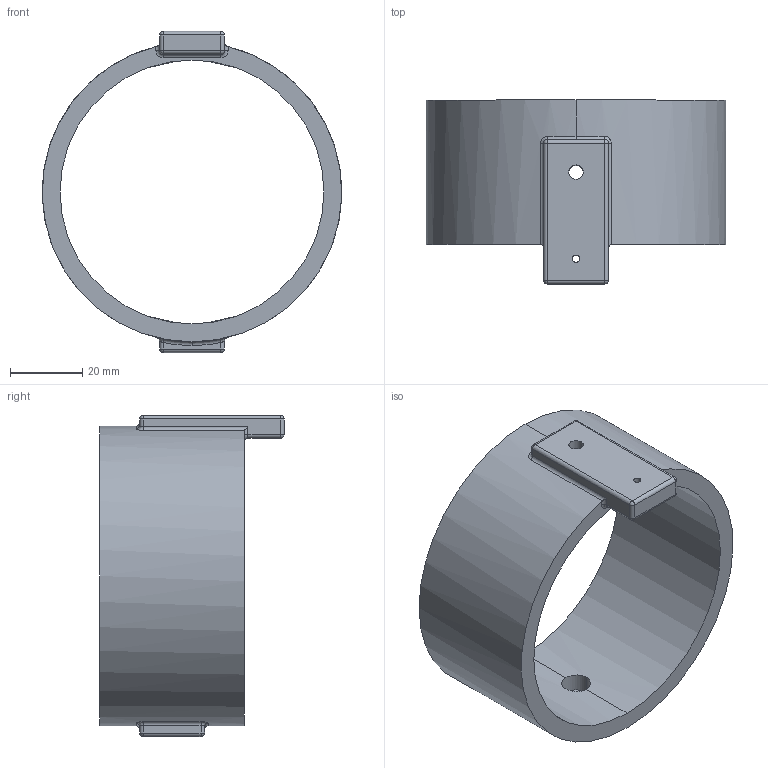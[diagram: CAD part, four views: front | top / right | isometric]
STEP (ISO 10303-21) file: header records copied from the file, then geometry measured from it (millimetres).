
FILE_DESCRIPTION (( 'STEP AP214' ), '1' );
FILE_NAME ('Anel_interno.STEP', '2026-11-19T20:06:18', ( '' ), ( '' ), 'SwSTEP 2.0', 'SolidWorks 2026', '' );
FILE_SCHEMA (( 'AUTOMOTIVE_DESIGN' ));
Length unit declared in the file: millimetre
Products named in the file (1): Anel_interno
Bounding box: 83 x 51 x 89 mm (x, y, z)
Volume: 51993.9 mm3; surface area: 23332.6 mm2
Topology: 1 solids, 1 shells, 78 faces, 190 edges, 104 vertices
Faces by surface type: cylinder 40, plane 15, sphere 10, torus 7, bspline 6
Entity records: 2666 total; most frequent: CARTESIAN_POINT 877, DIRECTION 389, ORIENTED_EDGE 360, EDGE_CURVE 180, AXIS2_PLACEMENT_3D 160, VERTEX_POINT 104, CIRCLE 87, EDGE_LOOP 86
